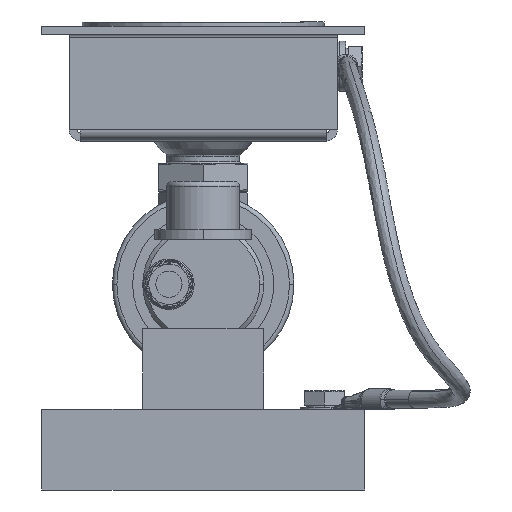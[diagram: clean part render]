
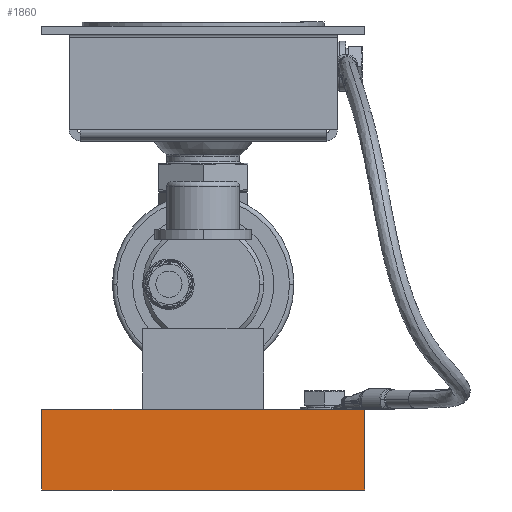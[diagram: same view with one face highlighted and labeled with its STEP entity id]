
A CAD part, front view. The second image highlights one B-rep face of the part: STEP entity #1860.
In plain terms, the highlighted planar face has unit normal (0, -1, 0) as drawn and (-1, 0, 0) by its records, which use the part's own axes.
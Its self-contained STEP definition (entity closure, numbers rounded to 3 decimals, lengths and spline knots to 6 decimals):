
#1860=ADVANCED_FACE('230:926',(#3573),#3574,.T.);
#3573=FACE_OUTER_BOUND('',#13964,.T.);
#3574=PLANE('',#13965);
#13964=EDGE_LOOP('',(#19903,#19904,#19905,#19906));
#13965=AXIS2_PLACEMENT_3D('',#19907,#19908,#19909);
#19903=ORIENTED_EDGE('',*,*,#21861,.T.);
#19904=ORIENTED_EDGE('',*,*,#21867,.F.);
#19905=ORIENTED_EDGE('',*,*,#21846,.F.);
#19906=ORIENTED_EDGE('',*,*,#21866,.T.);
#19907=CARTESIAN_POINT('',(-0.075,0.0,0.0));
#19908=DIRECTION('',(-1.0,-0.0,0.0));
#19909=DIRECTION('',(0.0,-1.0,-0.0));
#21846=EDGE_CURVE('230:968',#24846,#24847,#24848,.T.);
#21861=EDGE_CURVE('230:965',#24867,#24864,#24868,.F.);
#21866=EDGE_CURVE('230:959',#24846,#24867,#24874,.F.);
#21867=EDGE_CURVE('230:944',#24847,#24864,#24875,.T.);
#24846=VERTEX_POINT('',#30799);
#24847=VERTEX_POINT('',#30800);
#24848=LINE('',#30801,#30802);
#24864=VERTEX_POINT('',#30821);
#24867=VERTEX_POINT('',#30825);
#24868=LINE('',#30826,#30827);
#24874=LINE('',#30837,#30838);
#24875=LINE('',#30839,#30840);
#30799=CARTESIAN_POINT('',(-0.075,-0.04,0.0));
#30800=CARTESIAN_POINT('',(-0.075,0.04,0.0));
#30801=CARTESIAN_POINT('',(-0.075,0.0,0.0));
#30802=VECTOR('',#34190,1.0);
#30821=CARTESIAN_POINT('',(-0.075,0.04,0.02));
#30825=CARTESIAN_POINT('',(-0.075,-0.04,0.02));
#30826=CARTESIAN_POINT('',(-0.075,0.0,0.02));
#30827=VECTOR('',#34225,1.0);
#30837=CARTESIAN_POINT('',(-0.075,-0.04,0.0));
#30838=VECTOR('',#34230,1.0);
#30839=CARTESIAN_POINT('',(-0.075,0.04,0.0));
#30840=VECTOR('',#34231,1.0);
#34190=DIRECTION('',(0.0,1.0,-0.0));
#34225=DIRECTION('',(0.0,-1.0,0.0));
#34230=DIRECTION('',(-0.0,-0.0,-1.0));
#34231=DIRECTION('',(0.0,-0.0,1.0));
